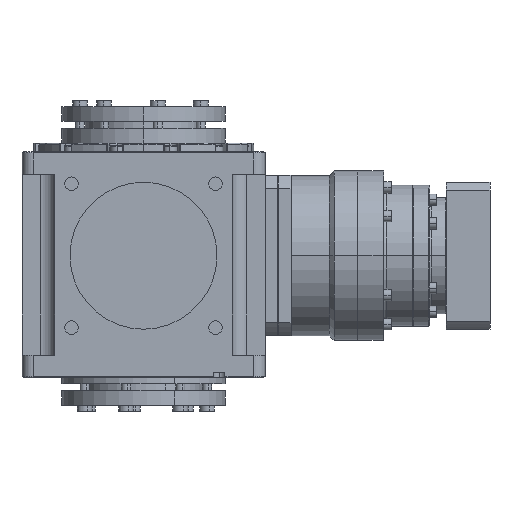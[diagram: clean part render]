
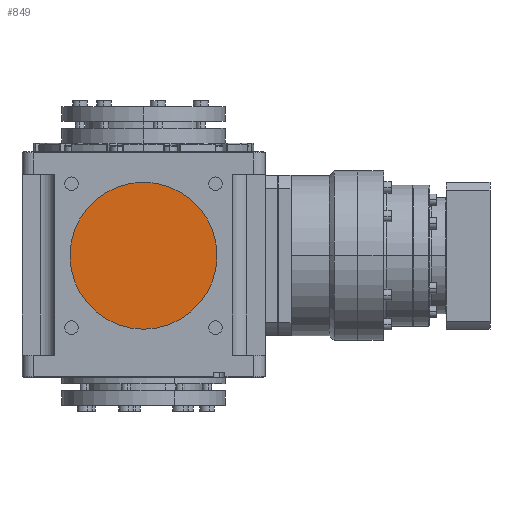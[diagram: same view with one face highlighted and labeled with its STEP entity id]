
A CAD part, left-side view. The second image highlights one B-rep face of the part: STEP entity #849.
In plain terms, the highlighted planar face has unit normal (-1, 0, 0).
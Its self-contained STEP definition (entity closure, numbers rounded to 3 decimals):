
#145 = AXIS2_PLACEMENT_3D ( 'NONE', #24841, #5777, #13160 ) ;
#849 = ADVANCED_FACE ( 'NONE', ( #16936 ), #12773, .T. ) ;
#1776 = DIRECTION ( 'NONE',  ( -1., 0., 0. ) ) ;
#3570 = DIRECTION ( 'NONE',  ( 0., -1., 0. ) ) ;
#4770 = EDGE_CURVE ( 'NONE', #16231, #14982, #15995, .T. ) ;
#5084 = CARTESIAN_POINT ( 'NONE',  ( -102.5, 0., 0. ) ) ;
#5777 = DIRECTION ( 'NONE',  ( -1., 0., 0. ) ) ;
#8367 = ORIENTED_EDGE ( 'NONE', *, *, #4770, .T. ) ;
#9572 = CIRCLE ( 'NONE', #27443, 65. ) ;
#10378 = CARTESIAN_POINT ( 'NONE',  ( -102.5, 65., 0. ) ) ;
#11395 = EDGE_LOOP ( 'NONE', ( #8367, #15753 ) ) ;
#12138 = DIRECTION ( 'NONE',  ( 0., -1., 0. ) ) ;
#12773 = PLANE ( 'NONE',  #14069 ) ;
#13160 = DIRECTION ( 'NONE',  ( 0., -1., 0. ) ) ;
#14069 = AXIS2_PLACEMENT_3D ( 'NONE', #5084, #24282, #12138 ) ;
#14982 = VERTEX_POINT ( 'NONE', #10378 ) ;
#15750 = CARTESIAN_POINT ( 'NONE',  ( -102.5, 0., 0. ) ) ;
#15753 = ORIENTED_EDGE ( 'NONE', *, *, #17095, .T. ) ;
#15995 = CIRCLE ( 'NONE', #145, 65. ) ;
#16231 = VERTEX_POINT ( 'NONE', #24825 ) ;
#16936 = FACE_OUTER_BOUND ( 'NONE', #11395, .T. ) ;
#17095 = EDGE_CURVE ( 'NONE', #14982, #16231, #9572, .T. ) ;
#24282 = DIRECTION ( 'NONE',  ( -1., 0., 0. ) ) ;
#24825 = CARTESIAN_POINT ( 'NONE',  ( -102.5, -65., 0. ) ) ;
#24841 = CARTESIAN_POINT ( 'NONE',  ( -102.5, 0., 0. ) ) ;
#27443 = AXIS2_PLACEMENT_3D ( 'NONE', #15750, #1776, #3570 ) ;
